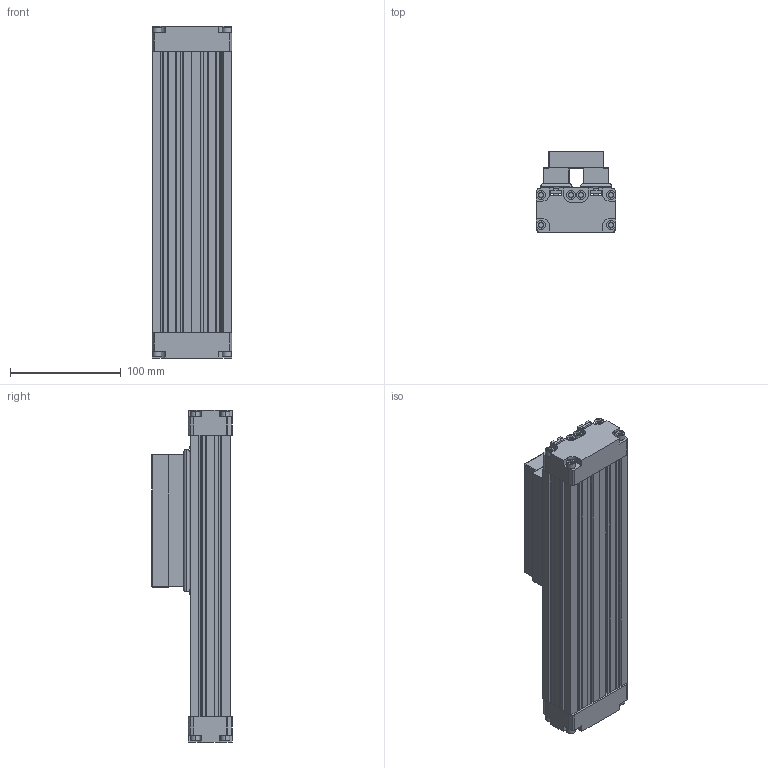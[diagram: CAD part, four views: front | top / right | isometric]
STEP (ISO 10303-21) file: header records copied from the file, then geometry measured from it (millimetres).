
FILE_DESCRIPTION (( 'STEP AP203' ), '1' );
FILE_NAME ('TRLF25.0100.STEP', '2005-12-20T08:29:09', ( 'Vesta Automation srl' ), ( 'Vesta Automation srl' ), 'SwSTEP 2.0', 'SolidWorks 2005187', '' );
FILE_SCHEMA (( 'CONFIG_CONTROL_DESIGN' ));
Length unit declared in the file: millimetre
Products named in the file (6): REAR END CAP-TRLFØ25; FRONT END CAP-TRLFØ25; TRLF25.0100; CARRIAGE-TRLFØ25; BARREL-TRLFØ25_STROKE 0100; SEALING BAND-TRLFØ25_STROKE 0100
Assembly tree (7 placements, depth 2):
  TRLF25.0100
    BARREL-TRLFØ25_STROKE 0100  x2
    CARRIAGE-TRLFØ25
    REAR END CAP-TRLFØ25
    FRONT END CAP-TRLFØ25
    SEALING BAND-TRLFØ25_STROKE 0100  x2
Bounding box: 72.01 x 73 x 300 mm (x, y, z)
Volume: 834088.4 mm3; surface area: 236288.1 mm2
Topology: 7 solids, 9 shells, 1674 faces, 3912 edges, 2326 vertices
Faces by surface type: cone 772, plane 698, cylinder 204
Entity records: 45070 total; most frequent: DIRECTION 8074, CARTESIAN_POINT 7530, ORIENTED_EDGE 7384, EDGE_CURVE 3692, AXIS2_PLACEMENT_3D 2790, VECTOR 2494, LINE 2494, VERTEX_POINT 2182
